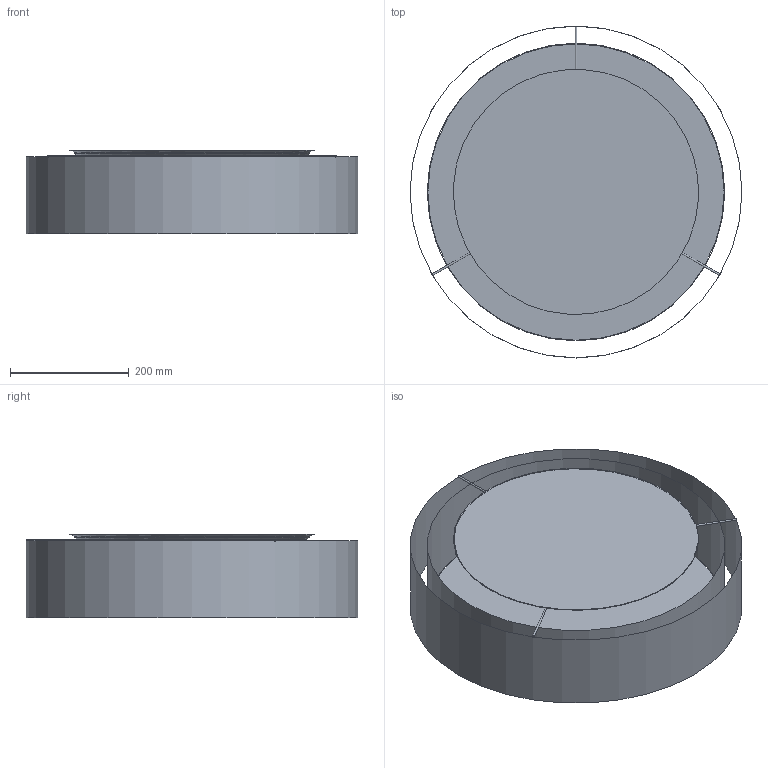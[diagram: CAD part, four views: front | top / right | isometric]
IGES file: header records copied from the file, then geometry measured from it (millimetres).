
Start section: SolidWorks IGES file using analytic representation for surfaces
Global section: file name: X:\PRODUKT\Modele 3D_WWW\_KOLEKCJE WWW\MIST\MIST-8943\MIST-8943.IGS; native system: SolidWorks 2021; preprocessor: SolidWorks 2021; author: gabriela.tworek; date: 220920.113340; units: millimetre
Bounding box: 560 x 560 x 141.52 mm (x, y, z)
Surface area: 938037.4 mm2 (no closed solid volume)
Topology: 0 solids, 0 shells, 40 faces, 122 edges, 110 vertices
Faces by surface type: bspline 28, revolution 12
